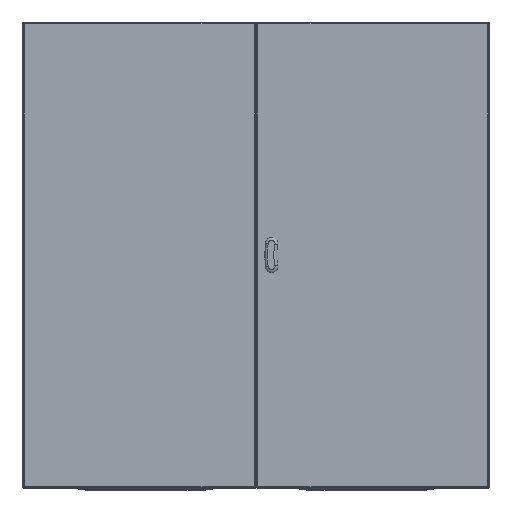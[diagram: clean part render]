
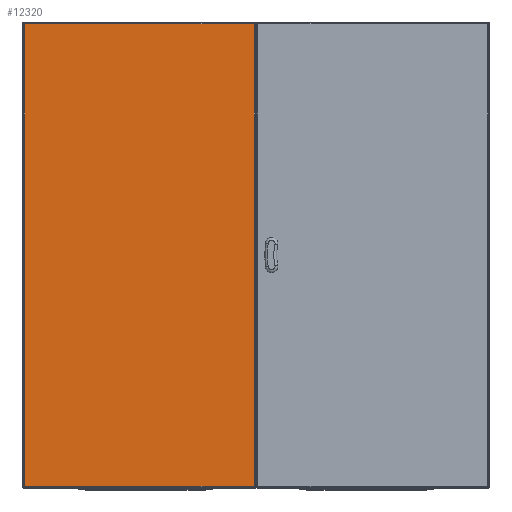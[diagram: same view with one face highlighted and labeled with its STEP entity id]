
A CAD part, top view. The second image highlights one B-rep face of the part: STEP entity #12320.
In plain terms, the highlighted planar face has unit normal (0, 0, 1) as drawn and (0, -1, 0) by its records, which use the part's own axes.
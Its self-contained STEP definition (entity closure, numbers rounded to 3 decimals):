
#775=LINE('',#19490,#1403);
#776=LINE('',#19493,#1404);
#777=LINE('',#19495,#1405);
#778=LINE('',#19497,#1406);
#1403=VECTOR('',#15551,1000.);
#1404=VECTOR('',#15552,1000.);
#1405=VECTOR('',#15553,1000.);
#1406=VECTOR('',#15554,1000.);
#2521=ORIENTED_EDGE('',*,*,#5307,.F.);
#2522=ORIENTED_EDGE('',*,*,#5308,.F.);
#2523=ORIENTED_EDGE('',*,*,#5309,.T.);
#2524=ORIENTED_EDGE('',*,*,#5310,.T.);
#5307=EDGE_CURVE('',#6765,#6766,#775,.F.);
#5308=EDGE_CURVE('',#6767,#6765,#776,.T.);
#5309=EDGE_CURVE('',#6767,#6768,#777,.F.);
#5310=EDGE_CURVE('',#6768,#6766,#778,.T.);
#6765=VERTEX_POINT('',#19491);
#6766=VERTEX_POINT('',#19492);
#6767=VERTEX_POINT('',#19494);
#6768=VERTEX_POINT('',#19496);
#8849=EDGE_LOOP('',(#2521,#2522,#2523,#2524));
#10507=FACE_BOUND('',#8849,.T.);
#11947=PLANE('',#13332);
#12320=ADVANCED_FACE('',(#10507),#11947,.F.);
#13332=AXIS2_PLACEMENT_3D('',#19489,#15549,#15550);
#15549=DIRECTION('',(0.,1.,0.));
#15550=DIRECTION('',(0.,0.,1.));
#15551=DIRECTION('',(0.,0.,-1.));
#15552=DIRECTION('',(-1.,0.,0.));
#15553=DIRECTION('',(0.,0.,-1.));
#15554=DIRECTION('',(-1.,0.,0.));
#19489=CARTESIAN_POINT('',(0.,-17.,0.));
#19490=CARTESIAN_POINT('',(-295.,-17.,600.));
#19491=CARTESIAN_POINT('',(-295.,-17.,-595.));
#19492=CARTESIAN_POINT('',(-295.,-17.,595.));
#19493=CARTESIAN_POINT('',(300.,-17.,-595.));
#19494=CARTESIAN_POINT('',(295.,-17.,-595.));
#19495=CARTESIAN_POINT('',(295.,-17.,600.));
#19496=CARTESIAN_POINT('',(295.,-17.,595.));
#19497=CARTESIAN_POINT('',(300.,-17.,595.));
